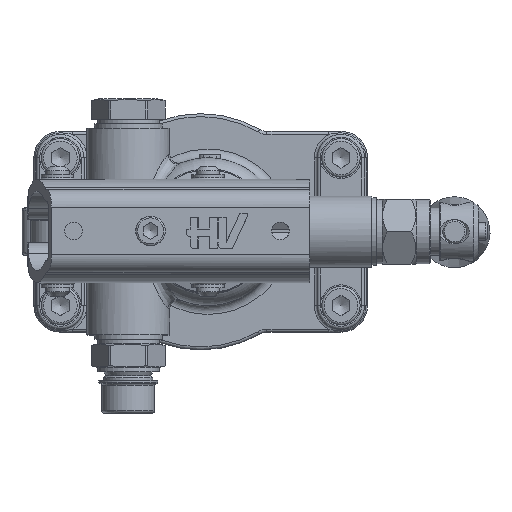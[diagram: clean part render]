
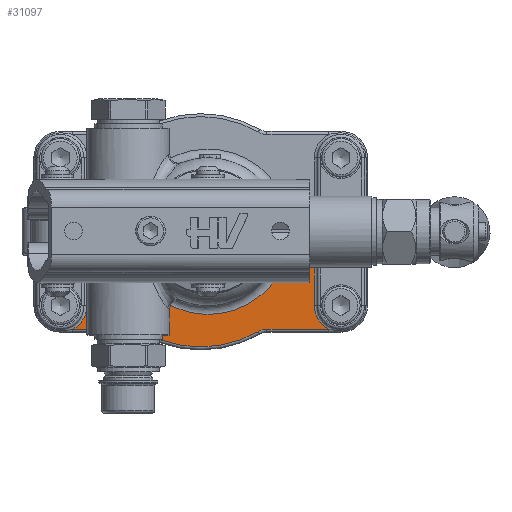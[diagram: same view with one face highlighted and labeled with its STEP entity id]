
A CAD part, top view. The second image highlights one B-rep face of the part: STEP entity #31097.
In plain terms, the highlighted planar face has unit normal (0, 0, 1).
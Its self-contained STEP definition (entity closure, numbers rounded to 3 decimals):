
#29781=CARTESIAN_POINT('',(34.05,1.,6.));
#29782=VERTEX_POINT('',#29781);
#29790=CARTESIAN_POINT('',(13.123,1.,6.));
#29791=VERTEX_POINT('',#29790);
#29792=CARTESIAN_POINT('',(34.05,1.,6.));
#29793=DIRECTION('',(-1.0,0.0,0.0));
#29794=VECTOR('',#29793,20.927);
#29795=LINE('',#29792,#29794);
#29796=EDGE_CURVE('',#29782,#29791,#29795,.T.);
#29821=CARTESIAN_POINT('',(37.043,0.2,6.));
#29822=VERTEX_POINT('',#29821);
#29830=CARTESIAN_POINT('',(34.05,-5.0,6.));
#29831=DIRECTION('',(0.0,0.0,1.0));
#29832=DIRECTION('',(0.258,0.966,0.0));
#29833=AXIS2_PLACEMENT_3D('',#29830,#29831,#29832);
#29834=CIRCLE('',#29833,6.0);
#29835=EDGE_CURVE('',#29822,#29782,#29834,.T.);
#29847=CARTESIAN_POINT('',(75.957,0.2,6.));
#29848=VERTEX_POINT('',#29847);
#29856=CARTESIAN_POINT('',(56.5,34.0,6.));
#29857=DIRECTION('',(0.0,0.0,-1.0));
#29858=DIRECTION('',(0.0,-1.0,0.0));
#29859=AXIS2_PLACEMENT_3D('',#29856,#29857,#29858);
#29860=CIRCLE('',#29859,39.0);
#29861=EDGE_CURVE('',#29848,#29822,#29860,.T.);
#29873=CARTESIAN_POINT('',(78.95,1.0,6.));
#29874=VERTEX_POINT('',#29873);
#29882=CARTESIAN_POINT('',(78.95,-5.0,6.));
#29883=DIRECTION('',(0.0,0.0,1.0));
#29884=DIRECTION('',(-0.258,0.966,0.0));
#29885=AXIS2_PLACEMENT_3D('',#29882,#29883,#29884);
#29886=CIRCLE('',#29885,6.);
#29887=EDGE_CURVE('',#29874,#29848,#29886,.T.);
#29899=CARTESIAN_POINT('',(99.877,1.,6.));
#29900=VERTEX_POINT('',#29899);
#29908=CARTESIAN_POINT('',(99.877,1.,6.));
#29909=DIRECTION('',(-1.0,0.0,0.0));
#29910=VECTOR('',#29909,20.927);
#29911=LINE('',#29908,#29910);
#29912=EDGE_CURVE('',#29900,#29874,#29911,.T.);
#30369=CARTESIAN_POINT('',(95.0,9.0,6.));
#30370=VERTEX_POINT('',#30369);
#30378=CARTESIAN_POINT('',(104.0,9.,6.));
#30379=DIRECTION('',(0.0,0.0,1.0));
#30380=DIRECTION('',(0.0,-1.0,0.0));
#30381=AXIS2_PLACEMENT_3D('',#30378,#30379,#30380);
#30382=CIRCLE('',#30381,9.0);
#30383=EDGE_CURVE('',#30370,#29900,#30382,.T.);
#30815=CARTESIAN_POINT('',(95.,23.5,6.));
#30816=VERTEX_POINT('',#30815);
#30824=CARTESIAN_POINT('',(95.,23.5,6.));
#30825=DIRECTION('',(0.0,-1.0,0.0));
#30826=VECTOR('',#30825,14.5);
#30827=LINE('',#30824,#30826);
#30828=EDGE_CURVE('',#30816,#30370,#30827,.T.);
#31026=CARTESIAN_POINT('',(56.5,34.,6.));
#31027=DIRECTION('',(0.0,0.0,1.0));
#31028=DIRECTION('',(1.0,0.0,0.0));
#31029=AXIS2_PLACEMENT_3D('',#31026,#31027,#31028);
#31030=PLANE('',#31029);
#31031=ORIENTED_EDGE('',*,*,#29912,.F.);
#31032=ORIENTED_EDGE('',*,*,#30383,.F.);
#31033=ORIENTED_EDGE('',*,*,#30828,.F.);
#31034=CARTESIAN_POINT('',(84.957,23.5,6.));
#31035=VERTEX_POINT('',#31034);
#31036=CARTESIAN_POINT('',(84.957,23.5,6.));
#31037=DIRECTION('',(1.0,0.0,0.0));
#31038=VECTOR('',#31037,10.043);
#31039=LINE('',#31036,#31038);
#31040=EDGE_CURVE('',#31035,#30816,#31039,.T.);
#31041=ORIENTED_EDGE('',*,*,#31040,.F.);
#31042=CARTESIAN_POINT('',(40.187,13.262,6.));
#31043=VERTEX_POINT('',#31042);
#31044=CARTESIAN_POINT('',(59.,34.0,6.));
#31045=DIRECTION('',(0.0,0.0,1.0));
#31046=DIRECTION('',(0.231,0.973,0.0));
#31047=AXIS2_PLACEMENT_3D('',#31044,#31045,#31046);
#31048=CIRCLE('',#31047,28.);
#31049=EDGE_CURVE('',#31043,#31035,#31048,.T.);
#31050=ORIENTED_EDGE('',*,*,#31049,.F.);
#31051=CARTESIAN_POINT('',(23.,17.,6.));
#31052=VERTEX_POINT('',#31051);
#31053=CARTESIAN_POINT('',(32.,17.,6.));
#31054=DIRECTION('',(0.0,0.0,1.0));
#31055=DIRECTION('',(-0.91,0.415,0.0));
#31056=AXIS2_PLACEMENT_3D('',#31053,#31054,#31055);
#31057=CIRCLE('',#31056,9.0);
#31058=EDGE_CURVE('',#31052,#31043,#31057,.T.);
#31059=ORIENTED_EDGE('',*,*,#31058,.F.);
#31060=CARTESIAN_POINT('',(23.,23.,6.));
#31061=VERTEX_POINT('',#31060);
#31062=CARTESIAN_POINT('',(23.,23.,6.));
#31063=DIRECTION('',(0.0,-1.0,0.0));
#31064=VECTOR('',#31063,6.);
#31065=LINE('',#31062,#31064);
#31066=EDGE_CURVE('',#31061,#31052,#31065,.T.);
#31067=ORIENTED_EDGE('',*,*,#31066,.F.);
#31068=CARTESIAN_POINT('',(18.,23.,6.));
#31069=VERTEX_POINT('',#31068);
#31070=CARTESIAN_POINT('',(18.,23.,6.));
#31071=DIRECTION('',(1.0,0.0,0.0));
#31072=VECTOR('',#31071,5.);
#31073=LINE('',#31070,#31072);
#31074=EDGE_CURVE('',#31069,#31061,#31073,.T.);
#31075=ORIENTED_EDGE('',*,*,#31074,.F.);
#31076=CARTESIAN_POINT('',(18.,9.,6.));
#31077=VERTEX_POINT('',#31076);
#31078=CARTESIAN_POINT('',(18.0,9.0,6.));
#31079=DIRECTION('',(0.0,1.0,0.0));
#31080=VECTOR('',#31079,14.);
#31081=LINE('',#31078,#31080);
#31082=EDGE_CURVE('',#31077,#31069,#31081,.T.);
#31083=ORIENTED_EDGE('',*,*,#31082,.F.);
#31084=CARTESIAN_POINT('',(9.,9.0,6.));
#31085=DIRECTION('',(0.0,0.0,1.0));
#31086=DIRECTION('',(0.0,-1.0,0.0));
#31087=AXIS2_PLACEMENT_3D('',#31084,#31085,#31086);
#31088=CIRCLE('',#31087,9.0);
#31089=EDGE_CURVE('',#29791,#31077,#31088,.T.);
#31090=ORIENTED_EDGE('',*,*,#31089,.F.);
#31091=ORIENTED_EDGE('',*,*,#29796,.F.);
#31092=ORIENTED_EDGE('',*,*,#29835,.F.);
#31093=ORIENTED_EDGE('',*,*,#29861,.F.);
#31094=ORIENTED_EDGE('',*,*,#29887,.F.);
#31095=EDGE_LOOP('',(#31031,#31032,#31033,#31041,#31050,#31059,#31067,#31075,#31083,#31090,#31091,#31092,#31093,#31094));
#31096=FACE_OUTER_BOUND('',#31095,.T.);
#31097=ADVANCED_FACE('',(#31096),#31030,.T.);
